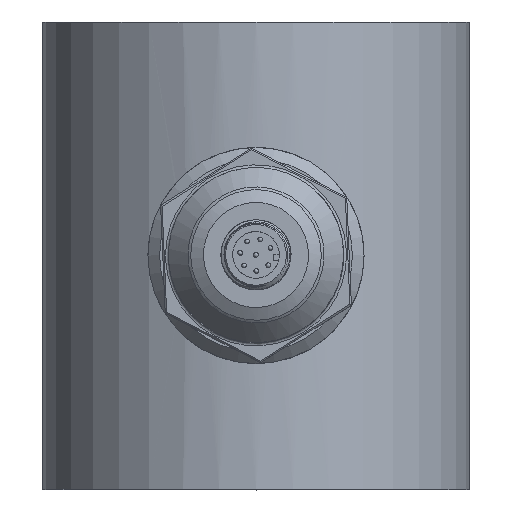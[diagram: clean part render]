
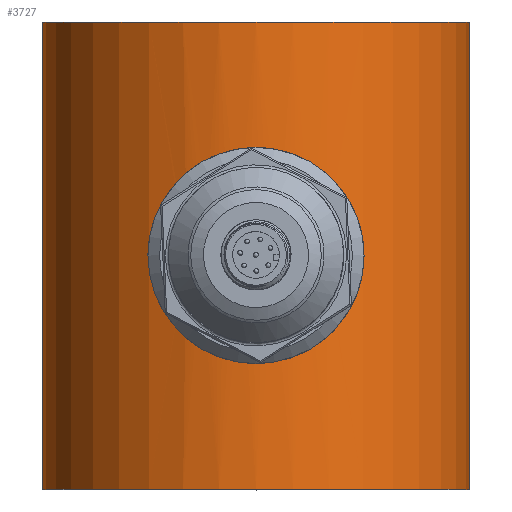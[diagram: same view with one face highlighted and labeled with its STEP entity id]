
A CAD part, top view. The second image highlights one B-rep face of the part: STEP entity #3727.
In plain terms, the highlighted cylindrical face has radius 36.5 mm (diameter 73 mm), a full revolution.
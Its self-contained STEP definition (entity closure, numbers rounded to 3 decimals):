
#682=CIRCLE('',#5785,36.5);
#683=CIRCLE('',#5786,36.5);
#788=ORIENTED_EDGE('',*,*,#1892,.T.);
#789=ORIENTED_EDGE('',*,*,#1893,.F.);
#790=ORIENTED_EDGE('',*,*,#1894,.T.);
#1892=EDGE_CURVE('',#2444,#2444,#2804,.T.);
#1893=EDGE_CURVE('',#2445,#2445,#682,.T.);
#1894=EDGE_CURVE('',#2446,#2446,#683,.T.);
#2444=VERTEX_POINT('',#6858);
#2445=VERTEX_POINT('',#6860);
#2446=VERTEX_POINT('',#6862);
#2804=B_SPLINE_CURVE_WITH_KNOTS('',3,(#6839,#6840,#6841,#6842,#6843,#6844,
#6845,#6846,#6847,#6848,#6849,#6850,#6851,#6852,#6853,#6854,#6855,#6856,
#6857),.UNSPECIFIED.,.T.,.F.,(1,1,1,1,1,1,1,1,1,1,1,1,1,1,1,1,1,1,1,1,1,
1,1),(-0.014,-0.009,-0.005,0.,
0.005,0.009,0.014,0.019,
0.024,0.028,0.033,0.038,
0.042,0.047,0.052,0.057,
0.061,0.066,0.071,0.076,
0.08,0.085,0.09),.UNSPECIFIED.);
#3034=EDGE_LOOP('',(#788));
#3035=EDGE_LOOP('',(#789));
#3036=EDGE_LOOP('',(#790));
#3360=FACE_BOUND('',#3034,.T.);
#3361=FACE_BOUND('',#3035,.T.);
#3362=FACE_BOUND('',#3036,.T.);
#3684=CYLINDRICAL_SURFACE('',#5784,36.5);
#3727=ADVANCED_FACE('',(#3360,#3361,#3362),#3684,.T.);
#5784=AXIS2_PLACEMENT_3D('',#6838,#6062,#6063);
#5785=AXIS2_PLACEMENT_3D('',#6859,#6064,#6065);
#5786=AXIS2_PLACEMENT_3D('',#6861,#6066,#6067);
#6062=DIRECTION('',(0.,-1.,0.));
#6063=DIRECTION('',(0.,0.,-1.));
#6064=DIRECTION('',(0.,1.,0.));
#6065=DIRECTION('',(1.,0.,0.));
#6066=DIRECTION('',(0.,1.,0.));
#6067=DIRECTION('',(1.,0.,0.));
#6838=CARTESIAN_POINT('',(0.,80.,0.));
#6839=CARTESIAN_POINT('',(-11.36,35.252,34.703));
#6840=CARTESIAN_POINT('',(-12.32,40.001,34.355));
#6841=CARTESIAN_POINT('',(-11.361,44.745,34.703));
#6842=CARTESIAN_POINT('',(-8.701,48.702,35.504));
#6843=CARTESIAN_POINT('',(-4.744,51.361,36.283));
#6844=CARTESIAN_POINT('',(-0.01,52.318,36.608));
#6845=CARTESIAN_POINT('',(4.737,51.366,36.284));
#6846=CARTESIAN_POINT('',(8.707,48.697,35.502));
#6847=CARTESIAN_POINT('',(11.362,44.74,34.702));
#6848=CARTESIAN_POINT('',(12.318,40.006,34.356));
#6849=CARTESIAN_POINT('',(11.366,35.266,34.701));
#6850=CARTESIAN_POINT('',(8.706,31.302,35.503));
#6851=CARTESIAN_POINT('',(4.742,28.637,36.283));
#6852=CARTESIAN_POINT('',(0.001,27.682,36.608));
#6853=CARTESIAN_POINT('',(-4.74,28.636,36.284));
#6854=CARTESIAN_POINT('',(-8.702,31.299,35.503));
#6855=CARTESIAN_POINT('',(-11.36,35.252,34.703));
#6856=CARTESIAN_POINT('',(-12.32,40.001,34.355));
#6857=CARTESIAN_POINT('',(-11.361,44.745,34.703));
#6858=CARTESIAN_POINT('',(-12.,40.,34.471));
#6859=CARTESIAN_POINT('',(0.,80.,0.));
#6860=CARTESIAN_POINT('',(36.5,80.,0.));
#6861=CARTESIAN_POINT('',(0.,0.,0.));
#6862=CARTESIAN_POINT('',(36.5,0.,0.));
